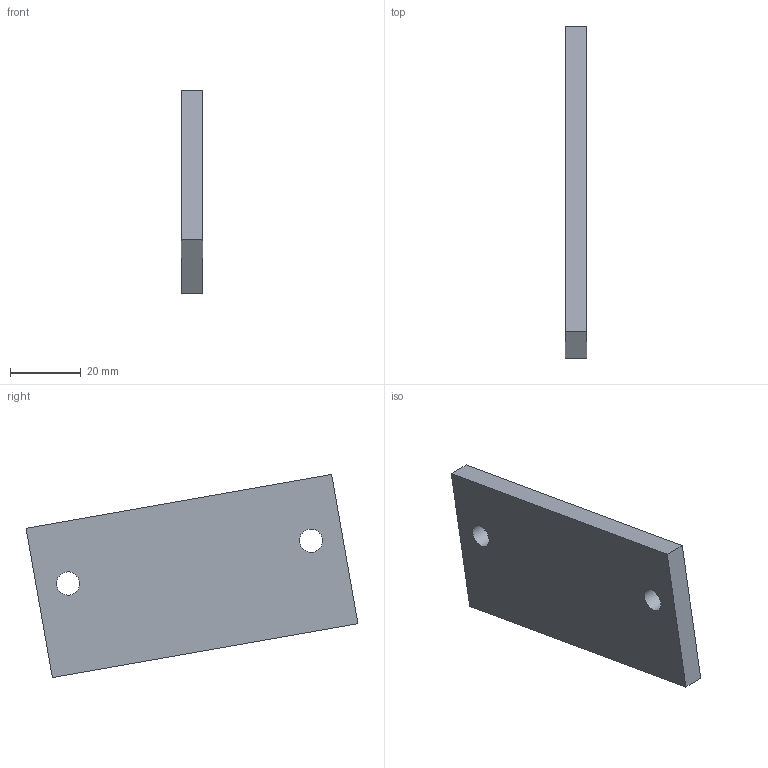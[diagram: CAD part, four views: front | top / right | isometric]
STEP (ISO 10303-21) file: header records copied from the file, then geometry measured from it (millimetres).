
FILE_DESCRIPTION(('golf model'),'2;1');
FILE_NAME('golf','',(''),(''),'golf_step_io','golf','');
FILE_SCHEMA(('AUTOMOTIVE_DESIGN { 1 0 10303 214 1 1 1 1 }'));
Length unit declared in the file: millimetre
Products named in the file (2): ASSEMBLY; gantry_drives.y_spacer_bk
Assembly tree (1 placements, depth 2):
  ASSEMBLY
    gantry_drives.y_spacer_bk
Bounding box: 6 x 94.13 x 57.63 mm (x, y, z)
Volume: 22293.5 mm3; surface area: 9252 mm2
Topology: 1 solids, 1 shells, 8 faces, 18 edges, 12 vertices
Faces by surface type: plane 6, cylinder 2
Full cylindrical faces by diameter (mm): 6.6 x2
Entity records: 258 total; most frequent: DIRECTION 40, CARTESIAN_POINT 38, ORIENTED_EDGE 32, EDGE_CURVE 16, AXIS2_PLACEMENT_3D 14, EDGE_LOOP 14, VERTEX_POINT 12, VECTOR 12
